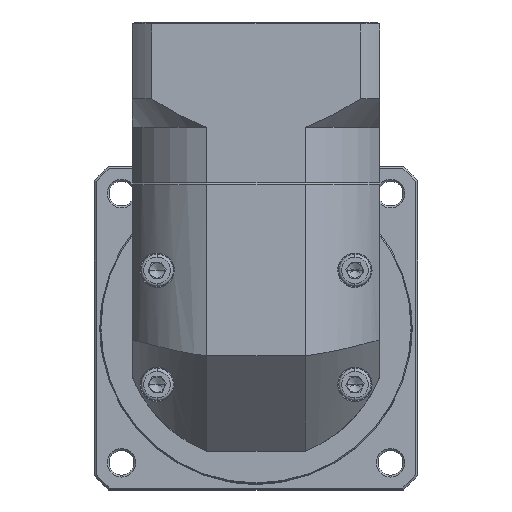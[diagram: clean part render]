
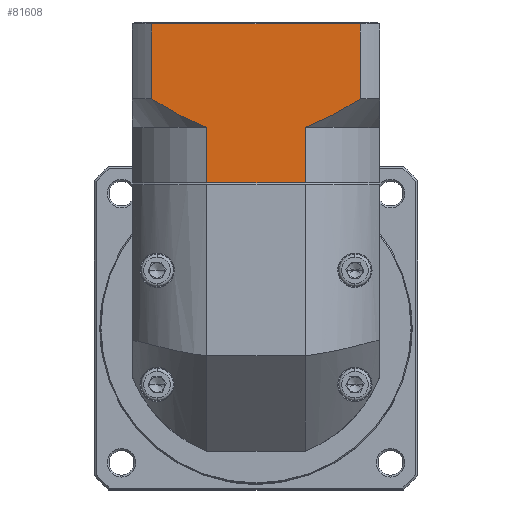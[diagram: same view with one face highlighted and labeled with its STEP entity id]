
A CAD part, top view. The second image highlights one B-rep face of the part: STEP entity #81608.
In plain terms, the highlighted planar face has unit normal (0, 0, 1).
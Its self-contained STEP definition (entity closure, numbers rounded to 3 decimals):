
#289 = CARTESIAN_POINT ( 'NONE',  ( -42.183, 87.25, 37.031 ) ) ;
#2025 = CARTESIAN_POINT ( 'NONE',  ( -88.877, 85.208, 37.031 ) ) ;
#2815 = LINE ( 'NONE', #72166, #51049 ) ;
#9612 = CARTESIAN_POINT ( 'NONE',  ( -53.029, 81.702, 37.031 ) ) ;
#10063 = CARTESIAN_POINT ( 'NONE',  ( -51.144, 82.502, 37.031 ) ) ;
#18174 = CARTESIAN_POINT ( 'NONE',  ( -54.311, 81.212, 37.031 ) ) ;
#18388 = DIRECTION ( 'NONE',  ( -1., 0., 0. ) ) ;
#18765 = LINE ( 'NONE', #113747, #133558 ) ;
#23034 = EDGE_LOOP ( 'NONE', ( #130090, #84057, #62096, #98965, #55651, #57066, #104138, #88742 ) ) ;
#25958 = B_SPLINE_CURVE_WITH_KNOTS ( 'NONE', 3,
 ( #52449, #137994, #9612, #74346, #10063, #105863, #95644, #127722, #289, #33270 ),
 .UNSPECIFIED., .F., .F.,
 ( 4, 2, 2, 2, 4 ),
 ( 0.101, 0.103, 0.105, 0.109, 0.117 ),
 .UNSPECIFIED. ) ;
#27945 = CARTESIAN_POINT ( 'NONE',  ( -54.311, 81.212, 37.031 ) ) ;
#29260 = DIRECTION ( 'NONE',  ( 0., 1., 0. ) ) ;
#30317 = EDGE_CURVE ( 'NONE', #61879, #100953, #30641, .T. ) ;
#30641 = LINE ( 'NONE', #93101, #117129 ) ;
#33270 = CARTESIAN_POINT ( 'NONE',  ( -39.915, 88.712, 37.031 ) ) ;
#33634 = CARTESIAN_POINT ( 'NONE',  ( -90.063, 85.879, 37.031 ) ) ;
#33923 = VERTEX_POINT ( 'NONE', #27945 ) ;
#35250 = VERTEX_POINT ( 'NONE', #132219 ) ;
#43963 = EDGE_CURVE ( 'NONE', #81291, #100953, #123402, .T. ) ;
#46751 = DIRECTION ( 'NONE',  ( 1., 0., 0. ) ) ;
#51049 = VECTOR ( 'NONE', #29260, 1000. ) ;
#51512 = VECTOR ( 'NONE', #136341, 1000. ) ;
#52449 = CARTESIAN_POINT ( 'NONE',  ( -54.311, 81.212, 37.031 ) ) ;
#54908 = LINE ( 'NONE', #18174, #51512 ) ;
#55651 = ORIENTED_EDGE ( 'NONE', *, *, #30317, .F. ) ;
#56151 = CARTESIAN_POINT ( 'NONE',  ( -54.311, 66.712, 37.031 ) ) ;
#57066 = ORIENTED_EDGE ( 'NONE', *, *, #69997, .T. ) ;
#58399 = FACE_OUTER_BOUND ( 'NONE', #23034, .T. ) ;
#59577 = AXIS2_PLACEMENT_3D ( 'NONE', #134844, #125502, #81867 ) ;
#61879 = VERTEX_POINT ( 'NONE', #69180 ) ;
#62096 = ORIENTED_EDGE ( 'NONE', *, *, #103284, .F. ) ;
#63890 = EDGE_CURVE ( 'NONE', #94312, #131081, #117619, .T. ) ;
#64532 = DIRECTION ( 'NONE',  ( 0., -1., 0. ) ) ;
#65402 = CARTESIAN_POINT ( 'NONE',  ( -94.687, 88.712, 37.031 ) ) ;
#65850 = CARTESIAN_POINT ( 'NONE',  ( -92.398, 87.263, 37.031 ) ) ;
#69180 = CARTESIAN_POINT ( 'NONE',  ( -80.291, 66.712, 37.031 ) ) ;
#69838 = LINE ( 'NONE', #100725, #88058 ) ;
#69997 = EDGE_CURVE ( 'NONE', #61879, #122854, #69838, .T. ) ;
#70765 = PLANE ( 'NONE',  #59577 ) ;
#72166 = CARTESIAN_POINT ( 'NONE',  ( -94.687, 81.212, 37.031 ) ) ;
#74346 = CARTESIAN_POINT ( 'NONE',  ( -51.768, 82.228, 37.031 ) ) ;
#76075 = CARTESIAN_POINT ( 'NONE',  ( -82.829, 82.154, 37.031 ) ) ;
#81291 = VERTEX_POINT ( 'NONE', #127908 ) ;
#81608 = ADVANCED_FACE ( 'NONE', ( #58399 ), #70765, .F. ) ;
#81867 = DIRECTION ( 'NONE',  ( 0., 1., 0. ) ) ;
#84057 = ORIENTED_EDGE ( 'NONE', *, *, #136274, .T. ) ;
#87213 = CARTESIAN_POINT ( 'NONE',  ( -85.281, 83.298, 37.031 ) ) ;
#88058 = VECTOR ( 'NONE', #46751, 1000. ) ;
#88742 = ORIENTED_EDGE ( 'NONE', *, *, #122808, .T. ) ;
#93101 = CARTESIAN_POINT ( 'NONE',  ( -80.291, 81.212, 37.031 ) ) ;
#94312 = VERTEX_POINT ( 'NONE', #134538 ) ;
#95644 = CARTESIAN_POINT ( 'NONE',  ( -48.078, 83.957, 37.031 ) ) ;
#96025 = VECTOR ( 'NONE', #64532, 1000. ) ;
#98312 = CARTESIAN_POINT ( 'NONE',  ( -80.291, 81.212, 37.031 ) ) ;
#98965 = ORIENTED_EDGE ( 'NONE', *, *, #43963, .T. ) ;
#100151 = EDGE_CURVE ( 'NONE', #33923, #122854, #54908, .T. ) ;
#100725 = CARTESIAN_POINT ( 'NONE',  ( -99.801, 66.712, 37.031 ) ) ;
#100953 = VERTEX_POINT ( 'NONE', #119805 ) ;
#103284 = EDGE_CURVE ( 'NONE', #81291, #35250, #2815, .T. ) ;
#104138 = ORIENTED_EDGE ( 'NONE', *, *, #100151, .F. ) ;
#105863 = CARTESIAN_POINT ( 'NONE',  ( -49.29, 83.352, 37.031 ) ) ;
#113747 = CARTESIAN_POINT ( 'NONE',  ( -99.801, 108.412, 37.031 ) ) ;
#117129 = VECTOR ( 'NONE', #124707, 1000. ) ;
#117436 = CARTESIAN_POINT ( 'NONE',  ( -39.915, 81.212, 37.031 ) ) ;
#117619 = LINE ( 'NONE', #117436, #96025 ) ;
#119805 = CARTESIAN_POINT ( 'NONE',  ( -80.291, 81.212, 37.031 ) ) ;
#122808 = EDGE_CURVE ( 'NONE', #33923, #131081, #25958, .T. ) ;
#122854 = VERTEX_POINT ( 'NONE', #56151 ) ;
#123402 = B_SPLINE_CURVE_WITH_KNOTS ( 'NONE', 3,
 ( #65402, #129900, #65850, #33634, #2025, #87213, #76075, #98312 ),
 .UNSPECIFIED., .F., .F.,
 ( 4, 2, 2, 4 ),
 ( 0.058, 0.062, 0.066, 0.074 ),
 .UNSPECIFIED. ) ;
#124707 = DIRECTION ( 'NONE',  ( 0., 1., 0. ) ) ;
#125502 = DIRECTION ( 'NONE',  ( 0., 0., -1. ) ) ;
#127722 = CARTESIAN_POINT ( 'NONE',  ( -44.497, 85.862, 37.031 ) ) ;
#127908 = CARTESIAN_POINT ( 'NONE',  ( -94.687, 88.712, 37.031 ) ) ;
#128382 = CARTESIAN_POINT ( 'NONE',  ( -39.915, 88.712, 37.031 ) ) ;
#129900 = CARTESIAN_POINT ( 'NONE',  ( -93.549, 87.978, 37.031 ) ) ;
#130090 = ORIENTED_EDGE ( 'NONE', *, *, #63890, .F. ) ;
#131081 = VERTEX_POINT ( 'NONE', #128382 ) ;
#132219 = CARTESIAN_POINT ( 'NONE',  ( -94.687, 108.412, 37.031 ) ) ;
#133558 = VECTOR ( 'NONE', #18388, 1000. ) ;
#134538 = CARTESIAN_POINT ( 'NONE',  ( -39.915, 108.412, 37.031 ) ) ;
#134844 = CARTESIAN_POINT ( 'NONE',  ( -99.801, 108.912, 37.031 ) ) ;
#136274 = EDGE_CURVE ( 'NONE', #94312, #35250, #18765, .T. ) ;
#136341 = DIRECTION ( 'NONE',  ( 0., -1., 0. ) ) ;
#137994 = CARTESIAN_POINT ( 'NONE',  ( -53.668, 81.45, 37.031 ) ) ;
